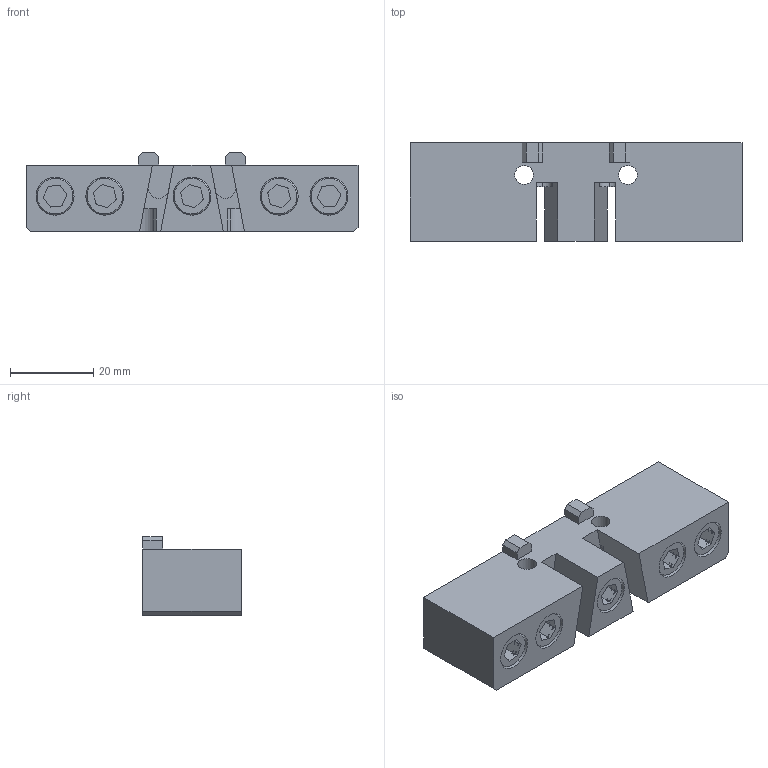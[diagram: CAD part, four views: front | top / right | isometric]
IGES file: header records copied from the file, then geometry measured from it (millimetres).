
Start section: SolidWorks IGES file using analytic representation for surfaces
Global section: file name: C:\Users\STAR079\Desktop\140296\ネット記載用データ\140296.IGS; native system: SolidWorks 2013; preprocessor: SolidWorks 2013; author: STAR079; date: 161110.180755; units: millimetre
Bounding box: 80 x 23.8 x 19 mm (x, y, z)
Surface area: 15022 mm2 (no closed solid volume)
Topology: 0 solids, 0 shells, 234 faces, 1347 edges, 1233 vertices
Faces by surface type: bspline 149, revolution 85
